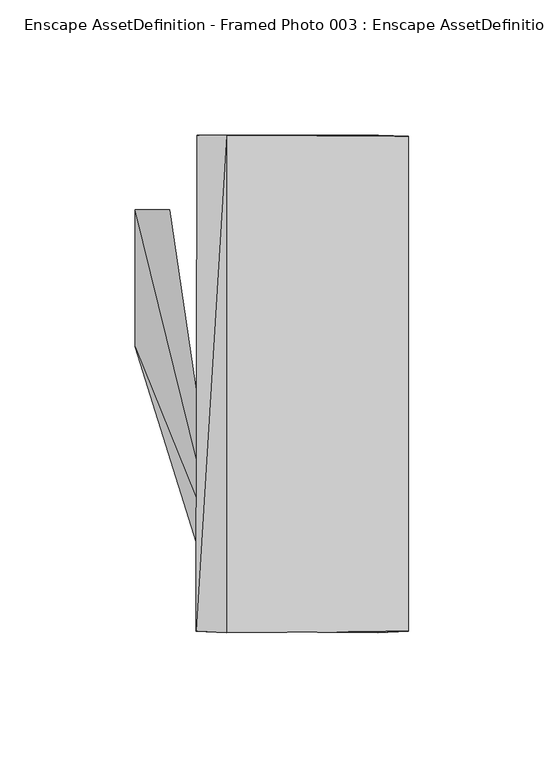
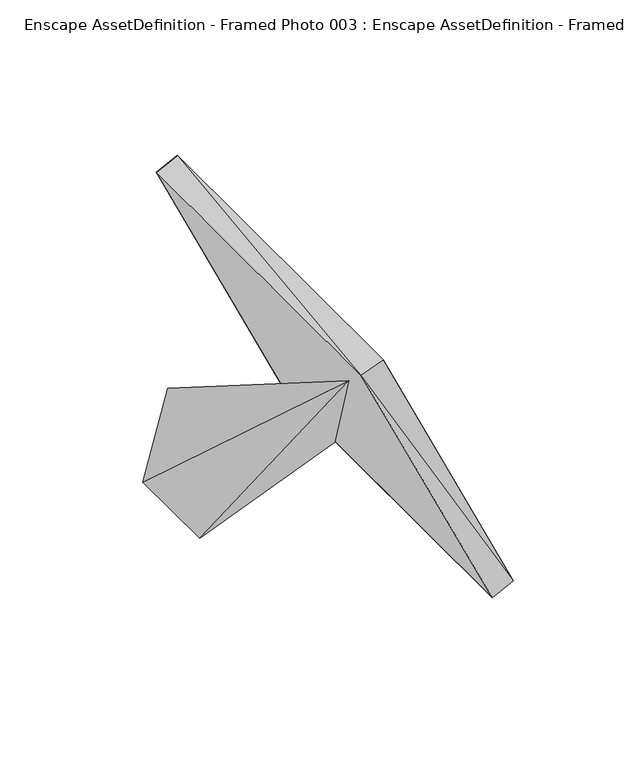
"""IFC4 building model written with IfcOpenShell, lengths in millimetres: geographic element geometry, Enscape AssetDefinition - Framed Photo 003 : Enscape AssetDefinition - Framed Photo 003."""

from ifc_helpers import new_model, si_unit, origin, place, context, project, spatial, triangles, source, transform, mapped, element, save


def enscape_assetdefinition_framed_photo_003_enscape_fe930a36(model_context):
    return source(origin(), model_context, "Body", "Tessellation", [
        triangles([(-1.4236913, -67.9304148, 91.6247035), (-13.2199904, 61.3204168, 46.778431), (64.0661113, 88.8790135, 0.4067689), (63.9644187, -95.0822413, 0.5084612), (75.2522563, -94.675462, 5.3896885), (7.8303025, -95.1839339, 149.8943572), (-3.4575359, -94.5737786, 145.0131235), (7.8303025, 88.8790135, 149.9960406), (75.2522563, 88.4722433, 5.3896885), (-3.1524593, 88.8790135, 144.5046698), (-25.9315204, 10.6776856, 0.1016922), (-26.0332107, 61.3204168, 0.2033845), (5.7964576, -67.9304148, 122.6408335)], [[11, 1, 13], [13, 2, 12], [11, 13, 12], [9, 3, 10], [10, 8, 9], [8, 10, 7], [7, 6, 8], [9, 8, 6], [6, 5, 9], [7, 4, 5], [5, 6, 7], [3, 9, 5], [5, 4, 3], [4, 7, 10], [10, 3, 4]], closed=False),
    ])


if __name__ == "__main__":
    model = new_model("IFC4")
    model_context = context("Model", 3, world=origin())
    ifc_project = project(units=[si_unit("LENGTHUNIT", "METRE", prefix="MILLI")], contexts=[model_context])
    site = spatial("IfcSite", under=ifc_project)
    building = spatial("IfcBuilding", under=site)
    placement = place(None, origin())
    enscape_assetdefinition_framed_photo_003_enscape_shape = enscape_assetdefinition_framed_photo_003_enscape_fe930a36(model_context)
    element("IfcGeographicElement", 1, ObjectType="Enscape AssetDefinition - Framed Photo 003 : Enscape AssetDefinition - Framed Photo 003", at=placement, inside=building, context=model_context, shape_type="MappedRepresentation", body=[
        mapped(enscape_assetdefinition_framed_photo_003_enscape_shape, transform((0.0, 0.0, 0.0), x_axis=(1.0, 0.0, 0.0), y_axis=(0.0, 1.0, 0.0), z_axis=(0.0, 0.0, 1.0))),
    ])
    save(model, "model.ifc")
